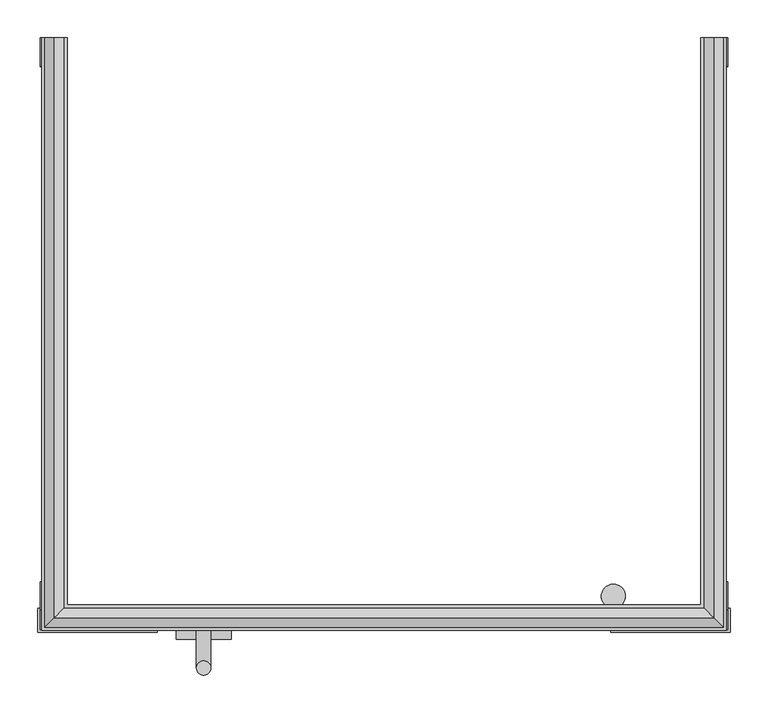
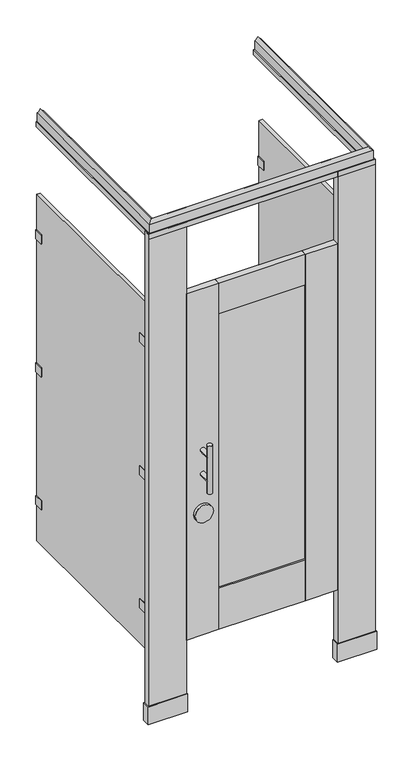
"""IFC4 building model written with IfcOpenShell, lengths in millimetres: proxy geometry, Toilet-Partition_Ironwood-Mfg_Compact-Laminate : Compact Laminate - Headrail Braced - Captured Panel Door."""

from ifc_helpers import new_model, si_unit, point, frame, frame_2d, origin, origin_with_axes, place, context, project, spatial, polyline, circle_curve, ellipse_curve, trimmed, segment, composite_curve, outline, extrude, source, transform, mapped, element, save
from ifc_brep_helpers import plane_surface, cylinder_surface, revolved_surface, advanced_brep


def specialty_equipment_3137e77c(model_context):
    return source(origin(), model_context, "Body", "SolidModel", [
        extrude(outline(polyline([(701.675, -758.825), (701.675, -790.575), (542.925, -790.575), (542.925, -758.825), (701.675, -758.825)])), origin_with_axes(), (0.0, 0.0, 1.0), 76.2),
        extrude(outline(polyline([(698.5, -762.0), (698.5, -787.4), (546.1, -787.4), (546.1, -762.0), (698.5, -762.0)])), origin_with_axes(), (0.0, 0.0, 1.0), 2082.8),
        extrude(outline(polyline([(-219.075, -758.825), (-60.325, -758.825), (-60.325, -790.575), (-219.075, -790.575), (-219.075, -758.825)])), origin_with_axes(), (0.0, 0.0, 1.0), 76.2),
        extrude(outline(polyline([(-215.9, -762.0), (-63.5, -762.0), (-63.5, -787.4), (-215.9, -787.4), (-215.9, -762.0)])), origin_with_axes(), (0.0, 0.0, 1.0), 2082.8),
        extrude(outline(polyline([(415.925, -781.05), (66.675, -781.05), (66.675, -768.35), (415.925, -768.35), (415.925, -781.05)])), frame((0.0, 0.0, 479.425), z_axis=(0.0, 0.0, 1.0), x_axis=(1.0, 0.0, 0.0)), (0.0, 0.0, 1.0), 1168.4),
        extrude(outline(polyline([(66.675, -762.0), (66.675, -787.4), (-63.5, -787.4), (-63.5, -762.0), (66.675, -762.0)])), frame((0.0, 0.0, 304.8), z_axis=(0.0, 0.0, 1.0), x_axis=(1.0, 0.0, 0.0)), (0.0, 0.0, 1.0), 1473.2),
        extrude(outline(polyline([(415.925, -762.0), (546.1, -762.0), (546.1, -787.4), (415.925, -787.4), (415.925, -762.0)])), frame((0.0, 0.0, 304.8), z_axis=(0.0, 0.0, 1.0), x_axis=(1.0, 0.0, 0.0)), (0.0, 0.0, 1.0), 1473.2),
        extrude(outline(polyline([(415.925, -762.0), (415.925, -787.4), (66.675, -787.4), (66.675, -762.0), (415.925, -762.0)])), frame((0.0, 0.0, 1647.825), z_axis=(0.0, 0.0, 1.0), x_axis=(1.0, 0.0, 0.0)), (0.0, 0.0, 1.0), 130.175),
        extrude(outline(polyline([(415.925, -762.0), (415.925, -787.4), (66.675, -787.4), (66.675, -762.0), (415.925, -762.0)])), frame((0.0, 0.0, 304.8), z_axis=(0.0, 0.0, 1.0), x_axis=(1.0, 0.0, 0.0)), (0.0, 0.0, 1.0), 174.625),
        extrude(outline(composite_curve([segment(trimmed(circle_curve(frame_2d((827.0875, 1.5875)), 36.5125), [point((827.0875, -34.925))], [point((827.0875, 38.1))], False, "CARTESIAN"), True, "CONTINUOUS"), segment(trimmed(circle_curve(frame_2d((827.0875, 1.5875)), 36.5125), [point((827.0875, 38.1))], [point((827.0875, -34.925))], False, "CARTESIAN"), True, "CONTINUOUS")], self_intersect=False)), frame((0.0, -800.1, 0.0), z_axis=(0.0, 1.0, 0.0), x_axis=(0.0, 0.0, 1.0)), (0.0, 0.0, 1.0), 12.7),
        advanced_brep(
        [(-7.9375, -787.4, 1092.2), (11.1125, -787.4, 1092.2), (-7.9375, -787.4, 990.6), (11.1125, -787.4, 990.6), (11.1125, -838.2, 1092.2), (-7.9375, -838.2, 1092.2), (11.1125, -838.2, 990.6), (-7.9375, -838.2, 990.6), (-7.9375, -838.2, 1143.0), (11.1125, -838.2, 1143.0), (-7.9375, -838.2, 939.8), (11.1125, -838.2, 939.8)],
        [
            (0, 1, circle_curve(frame((1.5875, -787.4, 1092.2), z_axis=(0.0, 1.0, 0.0), x_axis=(1.0, 0.0, 0.0)), 9.525)),
            (1, 0, circle_curve(frame((1.5875, -787.4, 1092.2), z_axis=(0.0, 1.0, 0.0), x_axis=(1.0, 0.0, 0.0)), 9.525)),
            (2, 3, circle_curve(frame((1.5875, -787.4, 990.6), z_axis=(0.0, 1.0, 0.0), x_axis=(1.0, 0.0, 0.0)), 9.525)),
            (3, 2, circle_curve(frame((1.5875, -787.4, 990.6), z_axis=(0.0, 1.0, 0.0), x_axis=(1.0, 0.0, 0.0)), 9.525)),
            (1, 4),
            (4, 5, ellipse_curve(frame((1.5875, -838.2, 1092.2), z_axis=(0.0, 0.7071067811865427, 0.7071067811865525), x_axis=(0.0, -0.7071067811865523, 0.7071067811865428)), 13.4703842, 9.525)),
            (5, 0),
            (5, 4, ellipse_curve(frame((1.5875, -838.2, 1092.2), z_axis=(0.0, 0.7071067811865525, -0.7071067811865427), x_axis=(0.0, -0.7071067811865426, -0.7071067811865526)), 13.4703842, 9.525)),
            (3, 6),
            (6, 7, ellipse_curve(frame((1.5875, -838.2, 990.6), z_axis=(0.0, 0.7071067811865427, 0.7071067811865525), x_axis=(0.0, -0.7071067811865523, 0.7071067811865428)), 13.4703842, 9.525)),
            (7, 2),
            (7, 6, ellipse_curve(frame((1.5875, -838.2, 990.6), z_axis=(0.0, 0.7071067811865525, -0.7071067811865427), x_axis=(0.0, -0.7071067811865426, -0.7071067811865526)), 13.4703842, 9.525)),
            (8, 9, circle_curve(frame((1.5875, -838.2, 1143.0), z_axis=(0.0, 0.0, 1.0), x_axis=(1.0, 0.0, 0.0)), 9.525)),
            (9, 8, circle_curve(frame((1.5875, -838.2, 1143.0), z_axis=(0.0, 0.0, 1.0), x_axis=(1.0, 0.0, 0.0)), 9.525)),
            (10, 11, circle_curve(frame((1.5875, -838.2, 939.8), z_axis=(0.0, 0.0, -1.0), x_axis=(1.0, 0.0, 0.0)), 9.525)),
            (11, 10, circle_curve(frame((1.5875, -838.2, 939.8), z_axis=(0.0, 0.0, -1.0), x_axis=(1.0, 0.0, 0.0)), 9.525)),
            (8, 5),
            (5, 7),
            (7, 10),
            (11, 6),
            (6, 4),
            (4, 9),
        ],
        [
            plane_surface(frame((11.1125, -787.4, 1092.2), z_axis=(0.0, 1.0, 0.0), x_axis=(0.0, 0.0, -1.0))),
            cylinder_surface(frame((1.5875, -787.4, 1092.2), z_axis=(0.0, -1.0, 0.0), x_axis=(1.0, 0.0, 0.0)), 9.525),
            cylinder_surface(frame((1.5875, -787.4, 990.6), z_axis=(0.0, -1.0, 0.0), x_axis=(1.0, 0.0, 0.0)), 9.525),
            plane_surface(frame((11.1125, -838.2, 1143.0), z_axis=(0.0, 0.0, 1.0), x_axis=(0.0, 1.0, 0.0))),
            plane_surface(frame((11.1125, -838.2, 939.8), z_axis=(0.0, 0.0, -1.0), x_axis=(0.0, -1.0, 0.0))),
            cylinder_surface(frame((1.5875, -838.2, 939.8), z_axis=(0.0, 0.0, 1.0), x_axis=(1.0, 0.0, 0.0)), 9.525),
        ],
        [
            (0, [[1, 2]]),
            (0, [[3, 4]]),
            (1, [[-2, 5, 6, 7]]),
            (1, [[-1, -7, 8, -5]]),
            (2, [[-4, 9, 10, 11]]),
            (2, [[-3, -11, 12, -9]]),
            (3, [[13, 14]]),
            (4, [[15, 16]]),
            (5, [[-13, 17, 18, 19, -16, 20, 21, 22]]),
            (5, [[-14, -22, -8, -17]]),
            (5, [[-15, -19, -10, -20]]),
            (5, [[-18, -6, -21, -12]]),
        ],
    ),
        extrude(outline(composite_curve([segment(polyline([(581.3737081, -762.0), (505.1737081, -762.0), (505.1737081, -758.825), (533.7487081, -758.825), (533.7487081, -752.9581331)]), True, "CONTINUOUS"), segment(trimmed(circle_curve(frame_2d((546.1, -742.8902139)), 15.9347861), [point((533.7487081, -752.9581331))], [point((558.4512919, -752.9581331))], False, "CARTESIAN"), True, "CONTINUOUS"), segment(polyline([(558.4512919, -752.9581331), (558.4512919, -758.825), (581.3737081, -758.825), (581.3737081, -762.0)]), True, "CONTINUOUS")], self_intersect=False)), frame((0.0, 0.0, 1574.8), z_axis=(0.0, 0.0, 1.0), x_axis=(1.0, 0.0, 0.0)), (0.0, 0.0, 1.0), 63.5),
        extrude(outline(composite_curve([segment(polyline([(581.3737081, -762.0), (505.1737081, -762.0), (505.1737081, -758.825), (533.7487081, -758.825), (533.7487081, -752.9581331)]), True, "CONTINUOUS"), segment(trimmed(circle_curve(frame_2d((546.1, -742.8902139)), 15.9347861), [point((533.7487081, -752.9581331))], [point((558.4512919, -752.9581331))], False, "CARTESIAN"), True, "CONTINUOUS"), segment(polyline([(558.4512919, -752.9581331), (558.4512919, -758.825), (581.3737081, -758.825), (581.3737081, -762.0)]), True, "CONTINUOUS")], self_intersect=False)), frame((0.0, 0.0, 1009.6500001), z_axis=(0.0, 0.0, 1.0), x_axis=(1.0, 0.0, 0.0)), (0.0, 0.0, 1.0), 63.5),
        extrude(outline(composite_curve([segment(polyline([(581.3737081, -762.0), (505.1737081, -762.0), (505.1737081, -758.825), (533.7487081, -758.825), (533.7487081, -752.9581331)]), True, "CONTINUOUS"), segment(trimmed(circle_curve(frame_2d((546.1, -742.8902139)), 15.9347861), [point((533.7487081, -752.9581331))], [point((558.4512919, -752.9581331))], False, "CARTESIAN"), True, "CONTINUOUS"), segment(polyline([(558.4512919, -752.9581331), (558.4512919, -758.825), (581.3737081, -758.825), (581.3737081, -762.0)]), True, "CONTINUOUS")], self_intersect=False)), frame((0.0, 0.0, 444.5), z_axis=(0.0, 0.0, 1.0), x_axis=(1.0, 0.0, 0.0)), (0.0, 0.0, 1.0), 63.5),
        extrude(outline(polyline([(682.498, -723.9), (682.498, -758.825), (695.198, -758.825), (695.198, -723.9), (698.373, -723.9), (698.373, -762.0), (679.323, -762.0), (679.323, -723.9), (682.498, -723.9)])), frame((0.0, 0.0, 1587.8188137), z_axis=(0.0, 0.0, 1.0), x_axis=(1.0, 0.0, 0.0)), (0.0, 0.0, 1.0), 38.1),
        extrude(outline(polyline([(682.498, -38.1), (679.323, -38.1), (679.323, 0.0), (698.373, 0.0), (698.373, -38.1), (695.198, -38.1), (695.198, -3.175), (682.498, -3.175), (682.498, -38.1)])), frame((0.0, 0.0, 1587.8188137), z_axis=(0.0, 0.0, 1.0), x_axis=(1.0, 0.0, 0.0)), (0.0, 0.0, 1.0), 38.1),
        extrude(outline(polyline([(682.498, -723.9), (682.498, -758.825), (695.198, -758.825), (695.198, -723.9), (698.373, -723.9), (698.373, -762.0), (679.323, -762.0), (679.323, -723.9), (682.498, -723.9)])), frame((0.0, 0.0, 1022.35), z_axis=(0.0, 0.0, 1.0), x_axis=(1.0, 0.0, 0.0)), (0.0, 0.0, 1.0), 38.1),
        extrude(outline(polyline([(682.498, -38.1), (679.323, -38.1), (679.323, 0.0), (698.373, 0.0), (698.373, -38.1), (695.198, -38.1), (695.198, -3.175), (682.498, -3.175), (682.498, -38.1)])), frame((0.0, 0.0, 1022.35), z_axis=(0.0, 0.0, 1.0), x_axis=(1.0, 0.0, 0.0)), (0.0, 0.0, 1.0), 38.1),
        extrude(outline(polyline([(682.498, -723.9), (682.498, -758.825), (695.198, -758.825), (695.198, -723.9), (698.373, -723.9), (698.373, -762.0), (679.323, -762.0), (679.323, -723.9), (682.498, -723.9)])), frame((0.0, 0.0, 457.2), z_axis=(0.0, 0.0, 1.0), x_axis=(1.0, 0.0, 0.0)), (0.0, 0.0, 1.0), 38.1),
        extrude(outline(polyline([(682.498, -38.1), (679.323, -38.1), (679.323, 0.0), (698.373, 0.0), (698.373, -38.1), (695.198, -38.1), (695.198, -3.175), (682.498, -3.175), (682.498, -38.1)])), frame((0.0, 0.0, 457.2), z_axis=(0.0, 0.0, 1.0), x_axis=(1.0, 0.0, 0.0)), (0.0, 0.0, 1.0), 38.1),
        extrude(outline(polyline([(-212.598, -723.9), (-212.598, -758.825), (-199.898, -758.825), (-199.898, -723.9), (-196.723, -723.9), (-196.723, -762.0), (-215.773, -762.0), (-215.773, -723.9), (-212.598, -723.9)])), frame((0.0, 0.0, 1587.8188137), z_axis=(0.0, 0.0, 1.0), x_axis=(1.0, 0.0, 0.0)), (0.0, 0.0, 1.0), 38.1),
        extrude(outline(polyline([(-212.598, -38.1), (-215.773, -38.1), (-215.773, 0.0), (-196.723, 0.0), (-196.723, -38.1), (-199.898, -38.1), (-199.898, -3.175), (-212.598, -3.175), (-212.598, -38.1)])), frame((0.0, 0.0, 1587.8188137), z_axis=(0.0, 0.0, 1.0), x_axis=(1.0, 0.0, 0.0)), (0.0, 0.0, 1.0), 38.1),
        extrude(outline(polyline([(-212.598, -723.9), (-212.598, -758.825), (-199.898, -758.825), (-199.898, -723.9), (-196.723, -723.9), (-196.723, -762.0), (-215.773, -762.0), (-215.773, -723.9), (-212.598, -723.9)])), frame((0.0, 0.0, 1022.35), z_axis=(0.0, 0.0, 1.0), x_axis=(1.0, 0.0, 0.0)), (0.0, 0.0, 1.0), 38.1),
        extrude(outline(polyline([(-212.598, -38.1), (-215.773, -38.1), (-215.773, 0.0), (-196.723, 0.0), (-196.723, -38.1), (-199.898, -38.1), (-199.898, -3.175), (-212.598, -3.175), (-212.598, -38.1)])), frame((0.0, 0.0, 1022.35), z_axis=(0.0, 0.0, 1.0), x_axis=(1.0, 0.0, 0.0)), (0.0, 0.0, 1.0), 38.1),
        extrude(outline(polyline([(-212.598, -723.9), (-212.598, -758.825), (-199.898, -758.825), (-199.898, -723.9), (-196.723, -723.9), (-196.723, -762.0), (-215.773, -762.0), (-215.773, -723.9), (-212.598, -723.9)])), frame((0.0, 0.0, 457.2), z_axis=(0.0, 0.0, 1.0), x_axis=(1.0, 0.0, 0.0)), (0.0, 0.0, 1.0), 38.1),
        extrude(outline(polyline([(-212.598, -38.1), (-215.773, -38.1), (-215.773, 0.0), (-196.723, 0.0), (-196.723, -38.1), (-199.898, -38.1), (-199.898, -3.175), (-212.598, -3.175), (-212.598, -38.1)])), frame((0.0, 0.0, 457.2), z_axis=(0.0, 0.0, 1.0), x_axis=(1.0, 0.0, 0.0)), (0.0, 0.0, 1.0), 38.1),
        extrude(outline(polyline([(-199.898, -3.175), (-199.898, -758.825), (-212.598, -758.825), (-212.598, -3.175), (-199.898, -3.175)])), frame((0.0, 0.0, 304.8), z_axis=(0.0, 0.0, 1.0), x_axis=(1.0, 0.0, 0.0)), (0.0, 0.0, 1.0), 1473.2),
        extrude(outline(polyline([(695.198, -3.175), (695.198, -758.825), (682.498, -758.825), (682.498, -3.175), (695.198, -3.175)])), frame((0.0, 0.0, 304.8), z_axis=(0.0, 0.0, 1.0), x_axis=(1.0, 0.0, 0.0)), (0.0, 0.0, 1.0), 1473.2),
        advanced_brep(
        [(663.448, 0.0, 2063.75), (662.257375, 0.0, 2063.75), (662.257375, 0.0, 2083.990625), (666.623, 0.0, 2083.990625), (666.623, 0.0, 2120.9), (679.323, 0.0, 2133.6), (692.023, 0.0, 2120.9), (692.023, 0.0, 2083.990625), (696.388625, 0.0, 2083.990625), (696.388625, 0.0, 2063.75), (695.198, 0.0, 2063.75), (695.198, 0.0, 2082.8), (663.448, 0.0, 2082.8), (667.813625, 0.0, 2119.709375), (667.813625, 0.0, 2083.990625), (690.832375, 0.0, 2083.990625), (690.832375, 0.0, 2119.709375), (679.323, 0.0, 2131.21875), (663.448, -755.65, 2063.75), (663.448, -755.65, 2082.8), (-180.848, -755.65, 2082.8), (-180.848, -755.65, 2063.75), (695.198, -787.4, 2082.8), (695.198, -787.4, 2063.75), (-212.598, -787.4, 2063.75), (-212.598, -787.4, 2082.8), (696.388625, -788.590625, 2063.75), (696.388625, -788.590625, 2083.990625), (-213.788625, -788.590625, 2083.990625), (-213.788625, -788.590625, 2063.75), (692.023, -784.225, 2083.990625), (692.023, -784.225, 2120.9), (-209.423, -784.225, 2120.9), (-209.423, -784.225, 2083.990625), (679.323, -771.525, 2133.6), (-196.723, -771.525, 2133.6), (666.623, -758.825, 2120.9), (-184.023, -758.825, 2120.9), (666.623, -758.825, 2083.990625), (-184.023, -758.825, 2083.990625), (662.257375, -754.459375, 2083.990625), (662.257375, -754.459375, 2063.75), (-179.657375, -754.459375, 2063.75), (-179.657375, -754.459375, 2083.990625), (667.813625, -760.015625, 2119.709375), (679.323, -771.525, 2131.21875), (-196.723, -771.525, 2131.21875), (-185.213625, -760.015625, 2119.709375), (690.832375, -783.034375, 2119.709375), (-208.232375, -783.034375, 2119.709375), (690.832375, -783.034375, 2083.990625), (-208.232375, -783.034375, 2083.990625), (667.813625, -760.015625, 2083.990625), (-185.213625, -760.015625, 2083.990625), (-180.848, 0.0, 2063.75), (-180.848, 0.0, 2082.8), (-212.598, 0.0, 2082.8), (-212.598, 0.0, 2063.75), (-213.788625, 0.0, 2063.75), (-213.788625, 0.0, 2083.990625), (-209.423, 0.0, 2083.990625), (-209.423, 0.0, 2120.9), (-196.723, 0.0, 2133.6), (-184.023, 0.0, 2120.9), (-184.023, 0.0, 2083.990625), (-179.657375, 0.0, 2083.990625), (-179.657375, 0.0, 2063.75), (-185.213625, 0.0, 2119.709375), (-196.723, 0.0, 2131.21875), (-208.232375, 0.0, 2119.709375), (-208.232375, 0.0, 2083.990625), (-185.213625, 0.0, 2083.990625)],
        [
            (0, 1),
            (1, 2),
            (2, 3),
            (3, 4),
            (4, 5, circle_curve(frame((649.9091809, 0.0, 2150.3138191), z_axis=(0.0, -1.0, 0.0), x_axis=(1.0, 0.0, 0.0)), 33.8308218)),
            (5, 6, circle_curve(frame((708.7368191, 0.0, 2150.3138191), z_axis=(0.0, -1.0, 0.0), x_axis=(1.0, 0.0, 0.0)), 33.8308218)),
            (6, 7),
            (7, 8),
            (8, 9),
            (9, 10),
            (10, 11),
            (11, 12),
            (12, 0),
            (13, 14),
            (14, 15),
            (15, 16),
            (16, 17, circle_curve(frame((709.9824574, 0.0, 2150.3688324), z_axis=(0.0, 1.0, 0.0), x_axis=(1.0, 0.0, 0.0)), 36.1486927)),
            (17, 13, circle_curve(frame((648.6635426, 0.0, 2150.3688324), z_axis=(0.0, 1.0, 0.0), x_axis=(1.0, 0.0, 0.0)), 36.1486927)),
            (18, 19),
            (19, 20),
            (20, 21),
            (21, 18),
            (22, 23),
            (23, 24),
            (24, 25),
            (25, 22),
            (26, 27),
            (27, 28),
            (28, 29),
            (29, 26),
            (30, 31),
            (31, 32),
            (32, 33),
            (33, 30),
            (31, 34, ellipse_curve(frame((708.7368191, -800.9388191, 2150.3138191), z_axis=(0.7071067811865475, 0.7071067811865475, 0.0), x_axis=(-0.7071067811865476, 0.7071067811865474, 0.0)), 47.844007, 33.8308218)),
            (34, 35),
            (35, 32, ellipse_curve(frame((-226.1368191, -800.9388191, 2150.3138191), z_axis=(-0.7071067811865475, 0.7071067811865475, 0.0), x_axis=(-0.7071067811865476, -0.7071067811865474, 0.0)), 47.844007, 33.8308218)),
            (34, 36, ellipse_curve(frame((649.9091809, -742.1111809, 2150.3138191), z_axis=(0.7071067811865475, 0.7071067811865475, 0.0), x_axis=(-0.7071067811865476, 0.7071067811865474, 0.0)), 47.844007, 33.8308218)),
            (36, 37),
            (37, 35, ellipse_curve(frame((-167.3091809, -742.1111809, 2150.3138191), z_axis=(-0.7071067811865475, 0.7071067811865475, 0.0), x_axis=(-0.7071067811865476, -0.7071067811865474, 0.0)), 47.844007, 33.8308218)),
            (36, 38),
            (38, 39),
            (39, 37),
            (40, 41),
            (41, 42),
            (42, 43),
            (43, 40),
            (44, 45, ellipse_curve(frame((648.6635426, -740.8655426, 2150.3688324), z_axis=(-0.7071067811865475, -0.7071067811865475, 0.0), x_axis=(0.7071067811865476, -0.7071067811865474, 0.0)), 51.1219715, 36.1486927)),
            (45, 46),
            (46, 47, ellipse_curve(frame((-166.0635426, -740.8655426, 2150.3688324), z_axis=(0.7071067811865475, -0.7071067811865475, 0.0), x_axis=(0.7071067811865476, 0.7071067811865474, 0.0)), 51.1219715, 36.1486927)),
            (47, 44),
            (45, 48, ellipse_curve(frame((709.9824574, -802.1844574, 2150.3688324), z_axis=(-0.7071067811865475, -0.7071067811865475, 0.0), x_axis=(0.7071067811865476, -0.7071067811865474, 0.0)), 51.1219715, 36.1486927)),
            (48, 49),
            (49, 46, ellipse_curve(frame((-227.3824574, -802.1844574, 2150.3688324), z_axis=(0.7071067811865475, -0.7071067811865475, 0.0), x_axis=(0.7071067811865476, 0.7071067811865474, 0.0)), 51.1219715, 36.1486927)),
            (48, 50),
            (50, 51),
            (51, 49),
            (52, 44),
            (47, 53),
            (53, 52),
            (54, 55),
            (55, 56),
            (56, 57),
            (57, 58),
            (58, 59),
            (59, 60),
            (60, 61),
            (61, 62, circle_curve(frame((-226.1368191, 0.0, 2150.3138191), z_axis=(0.0, -1.0, 0.0), x_axis=(-1.0, 0.0, 0.0)), 33.8308218)),
            (62, 63, circle_curve(frame((-167.3091809, 0.0, 2150.3138191), z_axis=(0.0, -1.0, 0.0), x_axis=(-1.0, 0.0, 0.0)), 33.8308218)),
            (63, 64),
            (64, 65),
            (65, 66),
            (66, 54),
            (67, 68, circle_curve(frame((-166.0635426, 0.0, 2150.3688324), z_axis=(0.0, 1.0, 0.0), x_axis=(-1.0, 0.0, 0.0)), 36.1486927)),
            (68, 69, circle_curve(frame((-227.3824574, 0.0, 2150.3688324), z_axis=(0.0, 1.0, 0.0), x_axis=(-1.0, 0.0, 0.0)), 36.1486927)),
            (69, 70),
            (70, 71),
            (71, 67),
            (20, 55),
            (54, 21),
            (24, 57),
            (56, 25),
            (28, 59),
            (58, 29),
            (32, 61),
            (60, 33),
            (35, 62),
            (37, 63),
            (39, 64),
            (42, 66),
            (65, 43),
            (46, 68),
            (67, 47),
            (49, 69),
            (51, 70),
            (71, 53),
            (0, 18),
            (41, 1),
            (40, 2),
            (38, 3),
            (36, 4),
            (34, 5),
            (31, 6),
            (30, 7),
            (27, 8),
            (26, 9),
            (23, 10),
            (22, 11),
            (19, 12),
            (13, 44),
            (52, 14),
            (50, 15),
            (48, 16),
            (45, 17),
        ],
        [
            plane_surface(frame((695.198, 0.0, 0.0), z_axis=(0.0, 1.0, 0.0), x_axis=(0.0, 0.0, 1.0))),
            plane_surface(frame((663.448, -755.65, 2082.8), z_axis=(0.0, -1.0, 0.0), x_axis=(-1.0, 0.0, 0.0))),
            plane_surface(frame((695.198, -787.4, 2063.75), z_axis=(0.0, 1.0, 0.0), x_axis=(-1.0, 0.0, 0.0))),
            plane_surface(frame((696.388625, -788.590625, 2083.990625), z_axis=(0.0, -1.0, 0.0), x_axis=(-1.0, 0.0, 0.0))),
            plane_surface(frame((692.023, -784.225, 2120.9), z_axis=(0.0, -1.0, 0.0), x_axis=(-1.0, 0.0, 0.0))),
            revolved_surface(polyline([(-259.9676408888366, -834.7696409, 2150.3138191), (742.5676408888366, -834.7696409, 2150.3138191)]), (695.198, -800.9388191, 2150.3138191), (-1.0, 0.0, 0.0)),
            revolved_surface(polyline([(-201.1400026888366, -775.9420027, 2150.3138191), (683.7400026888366, -775.9420027, 2150.3138191)]), (695.198, -742.1111809, 2150.3138191), (-1.0, 0.0, 0.0)),
            plane_surface(frame((666.623, -758.825, 2083.990625), z_axis=(0.0, 1.0, 0.0), x_axis=(-1.0, 0.0, 0.0))),
            plane_surface(frame((662.257375, -754.459375, 2063.75), z_axis=(0.0, 1.0, 0.0), x_axis=(-1.0, 0.0, 0.0))),
            cylinder_surface(frame((695.198, -740.8655426, 2150.3688324), z_axis=(1.0, 0.0, 0.0), x_axis=(0.0, -1.0, 0.0)), 36.1486927),
            cylinder_surface(frame((695.198, -802.1844574, 2150.3688324), z_axis=(1.0, 0.0, 0.0), x_axis=(0.0, -1.0, 0.0)), 36.1486927),
            plane_surface(frame((690.832375, -783.034375, 2083.990625), z_axis=(0.0, 1.0, 0.0), x_axis=(-1.0, 0.0, 0.0))),
            plane_surface(frame((667.813625, -760.015625, 2119.709375), z_axis=(0.0, -1.0, 0.0), x_axis=(-1.0, 0.0, 0.0))),
            plane_surface(frame((-212.598, 0.0, 0.0), z_axis=(0.0, 1.0, 0.0), x_axis=(0.0, 0.0, 1.0))),
            plane_surface(frame((-180.848, -755.65, 2082.8), z_axis=(-1.0, 0.0, 0.0), x_axis=(0.0, 1.0, 0.0))),
            plane_surface(frame((-212.598, -787.4, 2063.75), z_axis=(1.0, 0.0, 0.0), x_axis=(0.0, 1.0, 0.0))),
            plane_surface(frame((-213.788625, -788.590625, 2083.990625), z_axis=(-1.0, 0.0, 0.0), x_axis=(0.0, 1.0, 0.0))),
            plane_surface(frame((-209.423, -784.225, 2120.9), z_axis=(-1.0, 0.0, 0.0), x_axis=(0.0, 1.0, 0.0))),
            revolved_surface(polyline([(-259.9676409, 0.0, 2150.3138191), (-259.9676409, -834.7696408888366, 2150.3138191)]), (-226.1368191, -787.4, 2150.3138191), (0.0, 1.0, 0.0)),
            revolved_surface(polyline([(-201.1400027, 0.0, 2150.3138191), (-201.1400027, -775.9420026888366, 2150.3138191)]), (-167.3091809, -787.4, 2150.3138191), (0.0, 1.0, 0.0)),
            plane_surface(frame((-184.023, -758.825, 2083.990625), z_axis=(1.0, 0.0, 0.0), x_axis=(0.0, 1.0, 0.0))),
            plane_surface(frame((-179.657375, -754.459375, 2063.75), z_axis=(1.0, 0.0, 0.0), x_axis=(0.0, 1.0, 0.0))),
            cylinder_surface(frame((-166.0635426, -787.4, 2150.3688324), z_axis=(0.0, -1.0, 0.0), x_axis=(-1.0, 0.0, 0.0)), 36.1486927),
            cylinder_surface(frame((-227.3824574, -787.4, 2150.3688324), z_axis=(0.0, -1.0, 0.0), x_axis=(-1.0, 0.0, 0.0)), 36.1486927),
            plane_surface(frame((-208.232375, -783.034375, 2083.990625), z_axis=(1.0, 0.0, 0.0), x_axis=(0.0, 1.0, 0.0))),
            plane_surface(frame((-185.213625, -760.015625, 2119.709375), z_axis=(-1.0, 0.0, 0.0), x_axis=(0.0, 1.0, 0.0))),
            plane_surface(frame((663.448, 0.0, 2063.75), z_axis=(0.0, 0.0, -1.0), x_axis=(0.0, -1.0, 0.0))),
            plane_surface(frame((662.257375, 0.0, 2063.75), z_axis=(-1.0, 0.0, 0.0), x_axis=(0.0, -1.0, 0.0))),
            plane_surface(frame((662.257375, 0.0, 2083.990625), z_axis=(0.0, 0.0, 1.0), x_axis=(0.0, -1.0, 0.0))),
            plane_surface(frame((666.623, 0.0, 2083.990625), z_axis=(-1.0, 0.0, 0.0), x_axis=(0.0, -1.0, 0.0))),
            revolved_surface(polyline([(683.7400027, -775.9420026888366, 2150.3138191), (683.7400027, 0.0, 2150.3138191)]), (649.9091809, 0.0, 2150.3138191), (0.0, -1.0, 0.0)),
            revolved_surface(polyline([(742.5676409, -834.7696408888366, 2150.3138191), (742.5676409, 0.0, 2150.3138191)]), (708.7368191, 0.0, 2150.3138191), (0.0, -1.0, 0.0)),
            plane_surface(frame((692.023, 0.0, 2120.9), z_axis=(1.0, 0.0, 0.0), x_axis=(0.0, -1.0, 0.0))),
            plane_surface(frame((692.023, 0.0, 2083.990625), z_axis=(0.0, 0.0, 1.0), x_axis=(0.0, -1.0, 0.0))),
            plane_surface(frame((696.388625, 0.0, 2083.990625), z_axis=(1.0, 0.0, 0.0), x_axis=(0.0, -1.0, 0.0))),
            plane_surface(frame((696.388625, 0.0, 2063.75), z_axis=(0.0, 0.0, -1.0), x_axis=(0.0, -1.0, 0.0))),
            plane_surface(frame((695.198, 0.0, 2063.75), z_axis=(-1.0, 0.0, 0.0), x_axis=(0.0, -1.0, 0.0))),
            plane_surface(frame((695.198, 0.0, 2082.8), z_axis=(0.0, 0.0, -1.0), x_axis=(0.0, -1.0, 0.0))),
            plane_surface(frame((663.448, 0.0, 2082.8), z_axis=(1.0, 0.0, 0.0), x_axis=(0.0, -1.0, 0.0))),
            plane_surface(frame((667.813625, 0.0, 2119.709375), z_axis=(1.0, 0.0, 0.0), x_axis=(0.0, -1.0, 0.0))),
            plane_surface(frame((667.813625, 0.0, 2083.990625), z_axis=(0.0, 0.0, 1.0), x_axis=(0.0, -1.0, 0.0))),
            plane_surface(frame((690.832375, 0.0, 2083.990625), z_axis=(-1.0, 0.0, 0.0), x_axis=(0.0, -1.0, 0.0))),
            cylinder_surface(frame((709.9824574, 0.0, 2150.3688324), z_axis=(0.0, 1.0, 0.0), x_axis=(1.0, 0.0, 0.0)), 36.1486927),
            cylinder_surface(frame((648.6635426, 0.0, 2150.3688324), z_axis=(0.0, 1.0, 0.0), x_axis=(1.0, 0.0, 0.0)), 36.1486927),
        ],
        [
            (0, [[1, 2, 3, 4, 5, 6, 7, 8, 9, 10, 11, 12, 13], [14, 15, 16, 17, 18]]),
            (1, [[19, 20, 21, 22]]),
            (2, [[23, 24, 25, 26]]),
            (3, [[27, 28, 29, 30]]),
            (4, [[31, 32, 33, 34]]),
            (5, [[35, 36, 37, -32]]),
            (6, [[38, 39, 40, -36]]),
            (7, [[41, 42, 43, -39]]),
            (8, [[44, 45, 46, 47]]),
            (9, [[48, 49, 50, 51]]),
            (10, [[52, 53, 54, -49]]),
            (11, [[55, 56, 57, -53]]),
            (12, [[58, -51, 59, 60]]),
            (13, [[61, 62, 63, 64, 65, 66, 67, 68, 69, 70, 71, 72, 73], [74, 75, 76, 77, 78]]),
            (14, [[-21, 79, -61, 80]]),
            (15, [[-25, 81, -63, 82]]),
            (16, [[-29, 83, -65, 84]]),
            (17, [[-33, 85, -67, 86]]),
            (18, [[-37, 87, -68, -85]]),
            (19, [[-40, 88, -69, -87]]),
            (20, [[-43, 89, -70, -88]]),
            (21, [[-46, 90, -72, 91]]),
            (22, [[-50, 92, -74, 93]]),
            (23, [[-54, 94, -75, -92]]),
            (24, [[-57, 95, -76, -94]]),
            (25, [[-59, -93, -78, 96]]),
            (26, [[-1, 97, -22, -80, -73, -90, -45, 98]]),
            (27, [[-2, -98, -44, 99]]),
            (28, [[-3, -99, -47, -91, -71, -89, -42, 100]]),
            (29, [[-4, -100, -41, 101]]),
            (30, [[-5, -101, -38, 102]]),
            (31, [[-6, -102, -35, 103]]),
            (32, [[-7, -103, -31, 104]]),
            (33, [[-8, -104, -34, -86, -66, -83, -28, 105]]),
            (34, [[-9, -105, -27, 106]]),
            (35, [[-10, -106, -30, -84, -64, -81, -24, 107]]),
            (36, [[-11, -107, -23, 108]]),
            (37, [[-12, -108, -26, -82, -62, -79, -20, 109]]),
            (38, [[-13, -109, -19, -97]]),
            (39, [[-14, 110, -58, 111]]),
            (40, [[-15, -111, -60, -96, -77, -95, -56, 112]]),
            (41, [[-16, -112, -55, 113]]),
            (42, [[-17, -113, -52, 114]]),
            (43, [[-18, -114, -48, -110]]),
        ],
    ),
    ])


if __name__ == "__main__":
    model = new_model("IFC4")
    model_context = context("Model", 3, world=origin())
    ifc_project = project(units=[si_unit("LENGTHUNIT", "METRE", prefix="MILLI")], contexts=[model_context])
    site = spatial("IfcSite", under=ifc_project)
    building = spatial("IfcBuilding", under=site)
    placement = place(None, origin())
    specialty_equipment_shape = specialty_equipment_3137e77c(model_context)
    element("IfcBuildingElementProxy", 1, Name="Toilet-Partition_Ironwood-Mfg_Compact-Laminate : Compact Laminate - Headrail Braced - Captured Panel Door", ObjectType="Toilet-Partition_Ironwood-Mfg_Compact-Laminate : Compact Laminate - Headrail Braced - Captured Panel Door", at=placement, inside=building, context=model_context, shape_type="MappedRepresentation", body=[
        mapped(specialty_equipment_shape, transform((0.0, 0.0, 0.0), x_axis=(1.0, 0.0, 0.0), y_axis=(0.0, 1.0, 0.0), z_axis=(0.0, 0.0, 1.0))),
    ])
    save(model, "model.ifc")
